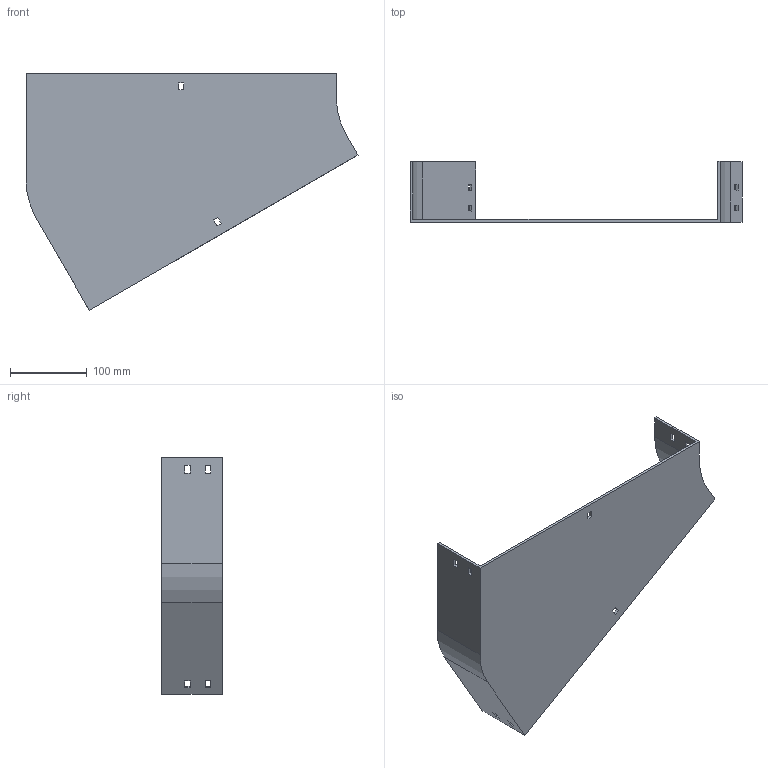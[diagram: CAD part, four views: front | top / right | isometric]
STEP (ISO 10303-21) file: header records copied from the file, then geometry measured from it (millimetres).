
FILE_DESCRIPTION (( 'STEP AP214' ), '1' );
FILE_NAME ('12F1C400.step', '2025-02-21T12:54:43', ( '' ), ( '' ), 'SwSTEP 2.0', 'SolidWorks 2023', '' );
FILE_SCHEMA (( 'AUTOMOTIVE_DESIGN' ));
Length unit declared in the file: millimetre
Products named in the file (1): 12F1C400
Bounding box: 432.4 x 79 x 307.98 mm (x, y, z)
Volume: 427907.2 mm3; surface area: 251116.7 mm2
Topology: 1 solids, 1 shells, 58 faces, 168 edges, 112 vertices
Faces by surface type: plane 54, cylinder 4
Entity records: 1943 total; most frequent: CARTESIAN_POINT 339, ORIENTED_EDGE 336, DIRECTION 294, EDGE_CURVE 168, LINE 160, VECTOR 160, VERTEX_POINT 112, EDGE_LOOP 78
